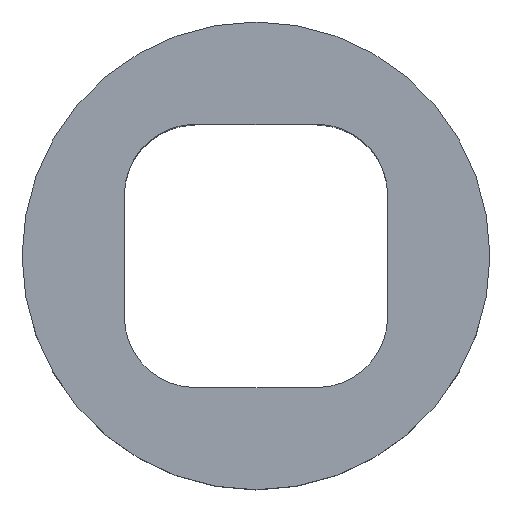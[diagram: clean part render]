
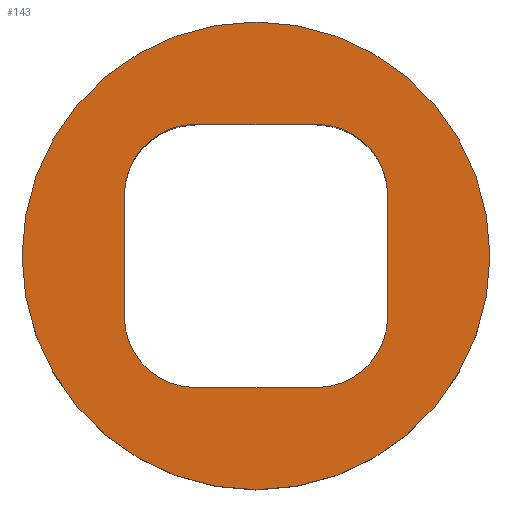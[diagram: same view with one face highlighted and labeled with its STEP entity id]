
A CAD part, top view. The second image highlights one B-rep face of the part: STEP entity #143.
In plain terms, the highlighted planar face has unit normal (0, 0, 1).
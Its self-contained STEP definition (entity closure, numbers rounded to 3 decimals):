
#102=PLANE('',#570);
#143=ADVANCED_FACE('',(#251,#252),#102,.T.);
#186=LINE('',#901,#218);
#187=LINE('',#913,#219);
#188=LINE('',#914,#220);
#189=LINE('',#915,#221);
#218=VECTOR('',#651,1.);
#219=VECTOR('',#668,1.);
#220=VECTOR('',#669,1.);
#221=VECTOR('',#670,1.);
#251=FACE_BOUND('',#268,.T.);
#252=FACE_BOUND('',#269,.T.);
#268=EDGE_LOOP('',(#344,#345,#346,#347,#348,#349,#350,#351));
#269=EDGE_LOOP('',(#352));
#344=ORIENTED_EDGE('',*,*,#481,.F.);
#345=ORIENTED_EDGE('',*,*,#505,.F.);
#346=ORIENTED_EDGE('',*,*,#495,.F.);
#347=ORIENTED_EDGE('',*,*,#506,.F.);
#348=ORIENTED_EDGE('',*,*,#491,.F.);
#349=ORIENTED_EDGE('',*,*,#500,.F.);
#350=ORIENTED_EDGE('',*,*,#485,.F.);
#351=ORIENTED_EDGE('',*,*,#507,.F.);
#352=ORIENTED_EDGE('',*,*,#503,.F.);
#434=VERTEX_POINT('',#835);
#435=VERTEX_POINT('',#837);
#437=VERTEX_POINT('',#843);
#438=VERTEX_POINT('',#845);
#442=VERTEX_POINT('',#873);
#443=VERTEX_POINT('',#875);
#445=VERTEX_POINT('',#881);
#446=VERTEX_POINT('',#883);
#451=VERTEX_POINT('',#907);
#481=EDGE_CURVE('',#434,#435,#528,.T.);
#485=EDGE_CURVE('',#437,#438,#529,.T.);
#491=EDGE_CURVE('',#442,#443,#530,.T.);
#495=EDGE_CURVE('',#445,#446,#531,.T.);
#500=EDGE_CURVE('',#438,#442,#186,.T.);
#503=EDGE_CURVE('',#451,#451,#535,.T.);
#505=EDGE_CURVE('',#446,#434,#187,.T.);
#506=EDGE_CURVE('',#443,#445,#188,.T.);
#507=EDGE_CURVE('',#435,#437,#189,.T.);
#528=CIRCLE('',#553,4.1);
#529=CIRCLE('',#555,4.1);
#530=CIRCLE('',#557,4.1);
#531=CIRCLE('',#559,4.1);
#535=CIRCLE('',#565,13.5);
#553=AXIS2_PLACEMENT_3D('',#836,#625,#626);
#555=AXIS2_PLACEMENT_3D('',#844,#632,#633);
#557=AXIS2_PLACEMENT_3D('',#874,#637,#638);
#559=AXIS2_PLACEMENT_3D('',#882,#644,#645);
#565=AXIS2_PLACEMENT_3D('',#906,#658,#659);
#570=AXIS2_PLACEMENT_3D('',#916,#671,#672);
#625=DIRECTION('',(0.,0.,1.));
#626=DIRECTION('',(1.,0.,0.));
#632=DIRECTION('',(0.,0.,1.));
#633=DIRECTION('',(1.,0.,0.));
#637=DIRECTION('',(0.,0.,1.));
#638=DIRECTION('',(1.,0.,0.));
#644=DIRECTION('',(0.,0.,1.));
#645=DIRECTION('',(1.,0.,0.));
#651=DIRECTION('',(-1.,0.,0.));
#658=DIRECTION('',(0.,0.,-1.));
#659=DIRECTION('',(1.,0.,0.));
#668=DIRECTION('',(1.,0.,0.));
#669=DIRECTION('',(0.,-1.,0.));
#670=DIRECTION('',(0.,1.,0.));
#671=DIRECTION('',(0.,0.,1.));
#672=DIRECTION('',(1.,0.,0.));
#835=CARTESIAN_POINT('',(93.338,59.249,81.658));
#836=CARTESIAN_POINT('',(93.288,63.349,81.658));
#837=CARTESIAN_POINT('',(97.388,63.349,81.658));
#843=CARTESIAN_POINT('',(97.388,70.349,81.658));
#844=CARTESIAN_POINT('',(93.288,70.349,81.658));
#845=CARTESIAN_POINT('',(93.338,74.449,81.658));
#873=CARTESIAN_POINT('',(86.239,74.449,81.658));
#874=CARTESIAN_POINT('',(86.288,70.349,81.658));
#875=CARTESIAN_POINT('',(82.188,70.349,81.658));
#881=CARTESIAN_POINT('',(82.188,63.349,81.658));
#882=CARTESIAN_POINT('',(86.288,63.349,81.658));
#883=CARTESIAN_POINT('',(86.239,59.249,81.658));
#901=CARTESIAN_POINT('',(86.283,74.449,81.658));
#906=CARTESIAN_POINT('',(89.788,66.849,81.658));
#907=CARTESIAN_POINT('',(103.288,66.849,81.658));
#913=CARTESIAN_POINT('',(86.283,59.249,81.658));
#914=CARTESIAN_POINT('',(82.188,-61.265,81.658));
#915=CARTESIAN_POINT('',(97.388,-61.265,81.658));
#916=CARTESIAN_POINT('',(86.283,-61.265,81.658));
